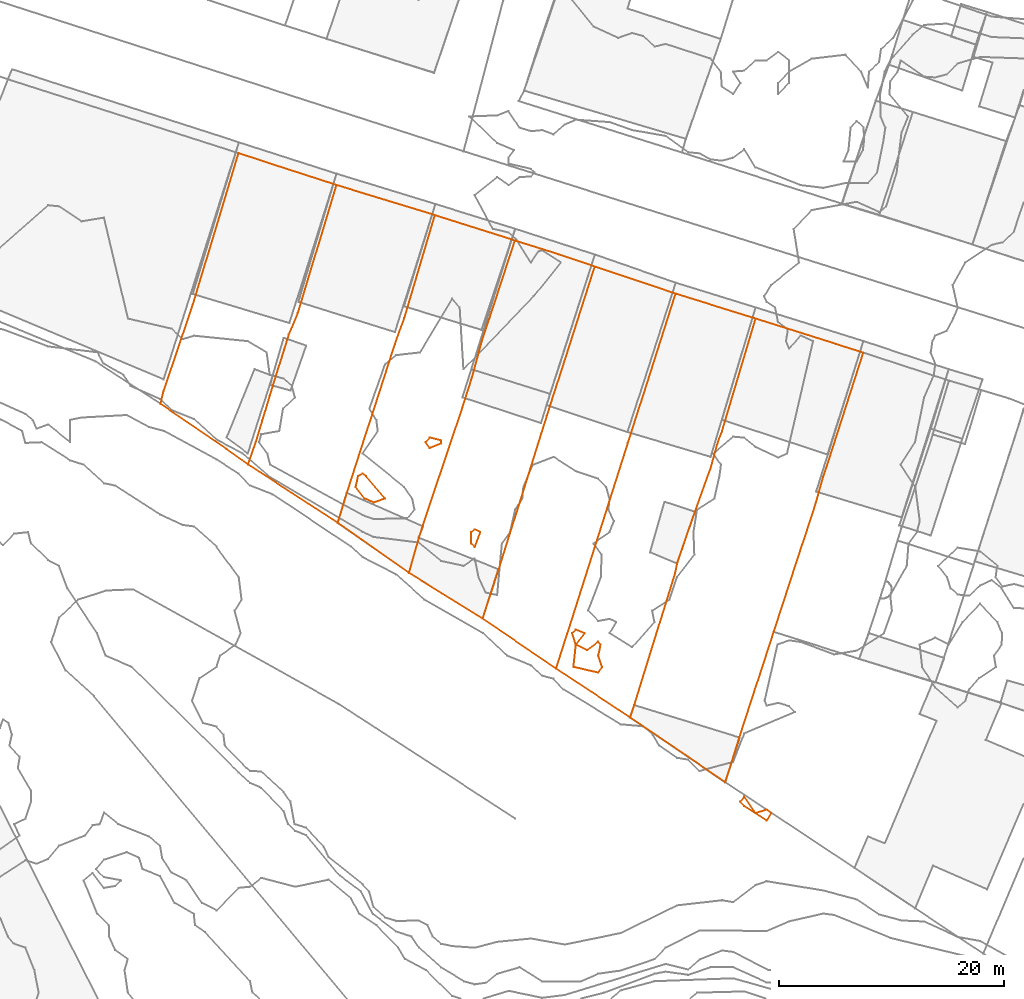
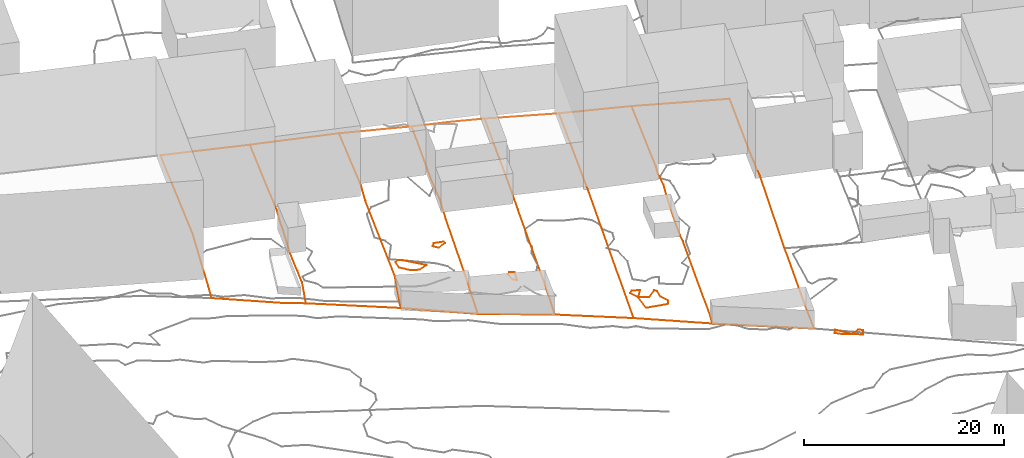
# Not in any storey, part 195 of 419: 12 proxies.
"""IFC2X3 model written with IfcOpenShell, lengths in metres."""

import ifcopenshell
import ifcopenshell.guid

model = None  # the IFC model being written
_history = None  # IfcOwnerHistory: only IFC2X3 demands one
_inside = {}  # id of a spatial element -> (the spatial element, [elements in it])
_under = {}  # id of a project, library or spatial element -> (it, [spatial elements below it])
_declared = {}  # id of a project -> (the project, [libraries it declares])
_typed = {}  # id of a type object -> (the type object, [elements of that type])
_made_of = {}  # id of a material, layer set ... -> (it, [elements and type objects made of it])


def new_model(schema):
    """Start an empty IFC model of exactly this schema.

    Asked for "IFC4X3", IfcOpenShell would pick the latest addendum, in which some entities
    have other attributes; the version numbers below select the first issue.
    IFC2X3 requires an IfcOwnerHistory on every rooted entity: one is made here for all.
    """
    global model, _history
    if schema == "IFC4X3":
        model = ifcopenshell.file(schema_version=(4, 3, 0, 0))
    else:
        model = ifcopenshell.file(schema=schema)
    _inside.clear()
    _under.clear()
    _declared.clear()
    _typed.clear()
    _made_of.clear()
    _history = None
    if model.schema == "IFC2X3":
        org = make("IfcOrganization", Name="unknown")
        user = make(
            "IfcPersonAndOrganization",
            ThePerson=make("IfcPerson", FamilyName="unknown"),
            TheOrganization=org,
        )
        app = make(
            "IfcApplication",
            ApplicationDeveloper=org,
            Version="unknown",
            ApplicationFullName="unknown",
            ApplicationIdentifier="unknown",
        )
        _history = make(
            "IfcOwnerHistory",
            OwningUser=user,
            OwningApplication=app,
            ChangeAction="ADDED",
            CreationDate=0,
        )
    return model


def make(cls, **values):
    """One entity of the class cls with the attributes given. An attribute that is None is left unset."""
    return model.create_entity(
        cls, **{name: value for name, value in values.items() if value is not None}
    )


def entity(cls, *values):
    """Any entity or typed value of the class cls, its attributes in the order of the schema. None: left unset."""
    e = model.create_entity(cls)
    for i, value in enumerate(values):
        if value is not None:
            e[i] = value
    return e


def rooted(cls, **values):
    """An entity with a GlobalId (a new one), such as an element, a storey or a relation."""
    return make(cls, GlobalId=ifcopenshell.guid.new(), OwnerHistory=_history, **values)


def si_unit(unit_type, name, prefix=None):
    """IfcSIUnit, for example si_unit("LENGTHUNIT", "METRE", prefix="MILLI")."""
    return make("IfcSIUnit", UnitType=unit_type, Prefix=prefix, Name=name)


def assignment(units):
    """IfcUnitAssignment: the units of a project."""
    return None if units is None else make("IfcUnitAssignment", Units=units)


def point(xyz):
    """IfcCartesianPoint."""
    return None if xyz is None else make("IfcCartesianPoint", Coordinates=xyz)


def direction(xyz):
    """IfcDirection."""
    return None if xyz is None else make("IfcDirection", DirectionRatios=xyz)


def frame(location, z_axis=None, x_axis=None):
    """IfcAxis2Placement3D, a coordinate frame: its origin and axes. An axis left out is left unset."""
    return make(
        "IfcAxis2Placement3D",
        Location=point(location),
        Axis=direction(z_axis),
        RefDirection=direction(x_axis),
    )


def origin_with_axes():
    """The frame at (0, 0, 0) with the z axis (0, 0, 1) and the x axis (1, 0, 0) written out."""
    return frame((0.0, 0.0, 0.0), z_axis=(0.0, 0.0, 1.0), x_axis=(1.0, 0.0, 0.0))


def place(relative_to, where):
    """IfcLocalPlacement: puts the frame where relative to a parent placement (None: the world)."""
    return make(
        "IfcLocalPlacement", PlacementRelTo=relative_to, RelativePlacement=where
    )


def context(
    kind, dimensions, precision=None, world=None, true_north=None, identifier=None
):
    """IfcGeometricRepresentationContext, for example the 3D "Model" context."""
    return make(
        "IfcGeometricRepresentationContext",
        ContextIdentifier=identifier,
        ContextType=kind,
        CoordinateSpaceDimension=dimensions,
        Precision=precision,
        WorldCoordinateSystem=world,
        TrueNorth=true_north,
    )


def subcontext(parent, identifier, kind, view, scale=None):
    """IfcGeometricRepresentationSubContext, for example "Body" below "Model"."""
    return make(
        "IfcGeometricRepresentationSubContext",
        ContextIdentifier=identifier,
        ContextType=kind,
        ParentContext=parent,
        TargetScale=scale,
        TargetView=view,
    )


def project(units=None, contexts=None):
    """IfcProject with its units and contexts."""
    return rooted(
        "IfcProject",
        Name="project",
        RepresentationContexts=contexts,
        UnitsInContext=assignment(units),
    )


def shape(context_of_items, identifier, shape_type, items):
    """IfcShapeRepresentation: the items that make up one representation, for example the "Body"."""
    return make(
        "IfcShapeRepresentation",
        ContextOfItems=context_of_items,
        RepresentationIdentifier=identifier,
        RepresentationType=shape_type,
        Items=items,
    )


def made_of(thing, what):
    """Note that an element or type object is made of a material, layer set ...; save() writes the relation."""
    if what is not None:
        _made_of.setdefault(what.id(), (what, []))[1].append(thing)
    return thing


def element(
    cls,
    number,
    at=None,
    inside=None,
    cuts=None,
    type_object=None,
    material=None,
    context=None,
    identifier="Body",
    shape_type=None,
    held_by="IfcProductDefinitionShape",
    body=None,
    shapes=None,
    **own,
):
    """One element of the class cls, such as IfcWall. Its Tag is "e" and its number.

    at: its placement. inside: the storey or other place that contains it. cuts: it is an
    opening in that element (IfcRelVoidsElement). A single representation is given by context,
    identifier, shape_type and body (its items); several are given by shapes. held_by: the class
    of the entity that holds the representations. save() writes the other relations.
    """
    e = rooted(cls, Tag="e%d" % number, ObjectPlacement=at, **own)
    if body is not None:
        shapes = [shape(context, identifier, shape_type, body)]
    if shapes is not None:
        e.Representation = make(held_by, Representations=shapes)
    if inside is not None:
        _inside.setdefault(inside.id(), (inside, []))[1].append(e)
    if cuts is not None:
        rooted(
            "IfcRelVoidsElement", RelatingBuildingElement=cuts, RelatedOpeningElement=e
        )
    if type_object is not None:
        _typed.setdefault(type_object.id(), (type_object, []))[1].append(e)
    return made_of(e, material)


def aggregate(whole, parts):
    """IfcRelAggregates: a whole, such as a stair, and the parts it consists of."""
    return rooted("IfcRelAggregates", RelatingObject=whole, RelatedObjects=parts)


def save(model, path):
    """Write the relations noted so far, then the file.

    IfcRelAggregates (storeys below a building ...), IfcRelContainedInSpatialStructure (elements
    in a storey), IfcRelDefinesByType, IfcRelAssociatesMaterial and IfcRelDeclares: one each for
    every whole, place, type object, material and project.
    """
    for whole, parts in _under.values():
        aggregate(whole, parts)
    for where, things in _inside.values():
        rooted(
            "IfcRelContainedInSpatialStructure",
            RelatedElements=things,
            RelatingStructure=where,
        )
    for kind, things in _typed.values():
        rooted("IfcRelDefinesByType", RelatedObjects=things, RelatingType=kind)
    for what, things in _made_of.values():
        rooted("IfcRelAssociatesMaterial", RelatedObjects=things, RelatingMaterial=what)
    for by, libraries in _declared.values():
        rooted("IfcRelDeclares", RelatingContext=by, RelatedDefinitions=libraries)
    model.write(path)


model = new_model("IFC2X3")

# Units and contexts
model_context = context("Model", 3, precision=1e-05, world=origin_with_axes())
body_context = subcontext(model_context, "Body", "Model", "MODEL_VIEW")
ifc_project = project(units=[si_unit("AREAUNIT", "SQUARE_METRE"), si_unit("LENGTHUNIT", "METRE")], contexts=[model_context])

# Proxies
proxy_1_placement = place(None, frame((840.9020204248, 128.917690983, 74.7575777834), z_axis=(0.0, 0.0, 1.0), x_axis=(1.0, 0.0, 0.0)))
element("IfcBuildingElementProxy", 1, at=proxy_1_placement, Name="Cadastre 122", ObjectType="NOTDEFINED", context=body_context, shape_type="GeometricCurveSet", body=[
    entity("IfcGeometricCurveSet", [entity("IfcPolyline", [entity("IfcCartesianPoint", [16.64, 22.1999999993, 1.5222605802]), entity("IfcCartesianPoint", [13.9199999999, 13.0499999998, 1.6239882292]), entity("IfcCartesianPoint", [13.08, 10.7299999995, 1.4205470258]), entity("IfcCartesianPoint", [8.7999999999, -2.5500000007, 1.8935833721]), entity("IfcCartesianPoint", [7.99, -5.1800000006, -0.2240576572]), entity("IfcCartesianPoint", [0.0, 0.0, 0.0]), entity("IfcCartesianPoint", [0.6899999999, 1.9699999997, 1.1384199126]), entity("IfcCartesianPoint", [1.2799999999, 3.9099999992, 1.1091110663]), entity("IfcCartesianPoint", [1.9399999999, 6.0899999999, 1.1049715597]), entity("IfcCartesianPoint", [2.1799999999, 6.8999999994, 1.1157044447]), entity("IfcCartesianPoint", [3.23, 10.2399999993, 1.7212671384]), entity("IfcCartesianPoint", [3.64, 11.5599999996, 1.8698835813]), entity("IfcCartesianPoint", [4.4399999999, 13.4799999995, 1.6099206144]), entity("IfcCartesianPoint", [7.88, 24.8799999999, 1.5647201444]), entity("IfcCartesianPoint", [16.64, 22.1999999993, 1.5222605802])])]),
])
proxy_2_placement = place(None, frame((833.1120204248, 134.3176909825, 74.8502401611), z_axis=(0.0, 0.0, 1.0), x_axis=(1.0, 0.0, 0.0)))
element("IfcBuildingElementProxy", 2, at=proxy_2_placement, Name="Cadastre 123", ObjectType="NOTDEFINED", context=body_context, shape_type="GeometricCurveSet", body=[
    entity("IfcGeometricCurveSet", [entity("IfcPolyline", [entity("IfcCartesianPoint", [15.67, 19.4800000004, 1.4720577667]), entity("IfcCartesianPoint", [12.23, 8.0800000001, 1.5172582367]), entity("IfcCartesianPoint", [11.4300000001, 6.1600000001, 1.7772212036]), entity("IfcCartesianPoint", [11.02, 4.8399999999, 1.6286047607]), entity("IfcCartesianPoint", [9.97, 1.5, 1.023042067]), entity("IfcCartesianPoint", [9.73, 0.6900000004, 1.012309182]), entity("IfcCartesianPoint", [9.0699999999, -1.4900000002, 1.0164486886]), entity("IfcCartesianPoint", [8.48, -3.4299999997, 1.0457575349]), entity("IfcCartesianPoint", [7.79, -5.3999999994, -0.0926623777]), entity("IfcCartesianPoint", [5.87, -4.0199999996, -0.2123916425]), entity("IfcCartesianPoint", [0.0, 0.0, 0.0]), entity("IfcCartesianPoint", [0.28, 1.1600000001, 0.6571166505]), entity("IfcCartesianPoint", [2.87, 8.79, 1.556423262]), entity("IfcCartesianPoint", [6.95, 22.3100000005, 1.515517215]), entity("IfcCartesianPoint", [15.67, 19.4800000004, 1.4720577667])])]),
])
proxy_3_placement = place(None, frame((848.8920204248, 123.7376909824, 74.5335201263), z_axis=(0.0, 0.0, 1.0), x_axis=(1.0, 0.0, 0.0)))
element("IfcBuildingElementProxy", 3, at=proxy_3_placement, Name="Cadastre 190", ObjectType="NOTDEFINED", context=body_context, shape_type="GeometricCurveSet", body=[
    entity("IfcGeometricCurveSet", [entity("IfcPolyline", [entity("IfcCartesianPoint", [15.77, 25.1200000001, 1.4646356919]), entity("IfcCartesianPoint", [12.8199999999, 16.1100000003, 1.4563823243]), entity("IfcCartesianPoint", [11.88, 12.6800000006, 1.381678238]), entity("IfcCartesianPoint", [11.0699999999, 10.1699999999, 0.8720753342]), entity("IfcCartesianPoint", [7.5599999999, -0.3099999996, 0.6956909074]), entity("IfcCartesianPoint", [7.24, -1.3099999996, 0.5296708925]), entity("IfcCartesianPoint", [6.34, -4.4699999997, -0.2385798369]), entity("IfcCartesianPoint", [0.0, 0.0, 0.0]), entity("IfcCartesianPoint", [0.8099999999, 2.6299999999, 2.1176410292]), entity("IfcCartesianPoint", [5.09, 15.9100000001, 1.644604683]), entity("IfcCartesianPoint", [5.9299999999, 18.2300000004, 1.8480458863]), entity("IfcCartesianPoint", [8.65, 27.3799999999, 1.7463182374]), entity("IfcCartesianPoint", [15.77, 25.1200000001, 1.4646356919])])]),
])
proxy_4_placement = place(None, frame((855.2320204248, 119.2676909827, 74.2949402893), z_axis=(0.0, 0.0, 1.0), x_axis=(1.0, 0.0, 0.0)))
element("IfcBuildingElementProxy", 4, at=proxy_4_placement, Name="Cadastre 191", ObjectType="NOTDEFINED", context=body_context, shape_type="GeometricCurveSet", body=[
    entity("IfcGeometricCurveSet", [entity("IfcPolyline", [entity("IfcCartesianPoint", [16.54, 27.2800000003, 1.5730403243]), entity("IfcCartesianPoint", [12.5699999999, 14.8799999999, 1.3618594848]), entity("IfcCartesianPoint", [12.28, 13.9699999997, 1.3117157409]), entity("IfcCartesianPoint", [11.77, 12.3700000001, 1.1352033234]), entity("IfcCartesianPoint", [8.0, 0.3300000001, 0.4890591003]), entity("IfcCartesianPoint", [6.5600000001, -4.0700000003, 0.0922621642]), entity("IfcCartesianPoint", [0.0, 0.0, 0.0]), entity("IfcCartesianPoint", [0.9, 3.1600000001, 0.7682507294]), entity("IfcCartesianPoint", [1.22, 4.1600000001, 0.9342707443]), entity("IfcCartesianPoint", [4.73, 14.6399999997, 1.1106551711]), entity("IfcCartesianPoint", [5.54, 17.1500000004, 1.6202580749]), entity("IfcCartesianPoint", [6.48, 20.5800000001, 1.6949621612]), entity("IfcCartesianPoint", [9.4300000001, 29.5899999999, 1.7032155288]), entity("IfcCartesianPoint", [13.39, 28.3399999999, 1.6616943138]), entity("IfcCartesianPoint", [16.54, 27.2800000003, 1.5730403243])])]),
])
proxy_5_placement = place(None, frame((861.7920204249, 115.1976909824, 74.3872024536), z_axis=(0.0, 0.0, 1.0), x_axis=(1.0, 0.0, 0.0)))
element("IfcBuildingElementProxy", 5, at=proxy_5_placement, Name="Cadastre 192", ObjectType="NOTDEFINED", context=body_context, shape_type="GeometricCurveSet", body=[
    entity("IfcGeometricCurveSet", [entity("IfcPolyline", [entity("IfcCartesianPoint", [17.1799999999, 28.9300000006, 1.0716720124]), entity("IfcCartesianPoint", [12.9299999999, 15.6200000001, 1.0371231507]), entity("IfcCartesianPoint", [6.5399999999, -4.46, -0.0143181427]), entity("IfcCartesianPoint", [0.0, 0.0, 0.0]), entity("IfcCartesianPoint", [1.4399999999, 4.4000000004, 0.3967969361]), entity("IfcCartesianPoint", [5.21, 16.4400000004, 1.0429411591]), entity("IfcCartesianPoint", [5.72, 18.04, 1.2194535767]), entity("IfcCartesianPoint", [6.0099999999, 18.9500000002, 1.2695973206]), entity("IfcCartesianPoint", [9.98, 31.3500000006, 1.4807781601]), entity("IfcCartesianPoint", [17.1799999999, 28.9300000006, 1.0716720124])])]),
])
proxy_6_placement = place(None, frame((868.3320204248, 110.7376909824, 74.3728843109), z_axis=(0.0, 0.0, 1.0), x_axis=(1.0, 0.0, 0.0)))
element("IfcBuildingElementProxy", 6, at=proxy_6_placement, Name="Cadastre 193", ObjectType="NOTDEFINED", context=body_context, shape_type="GeometricCurveSet", body=[
    entity("IfcGeometricCurveSet", [entity("IfcPolyline", [entity("IfcCartesianPoint", [17.76, 31.1699999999, 0.8222172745]), entity("IfcCartesianPoint", [14.76, 21.1299999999, 0.6523639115]), entity("IfcCartesianPoint", [14.36, 20.04, 0.5921358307]), entity("IfcCartesianPoint", [13.75, 17.8399999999, 0.7060647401]), entity("IfcCartesianPoint", [12.35, 13.9700000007, 0.5317525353]), entity("IfcCartesianPoint", [10.79, 9.3900000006, 0.6733961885]), entity("IfcCartesianPoint", [10.5900000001, 8.4800000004, 0.5662390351]), entity("IfcCartesianPoint", [6.9600000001, -3.2299999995, -0.0633833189]), entity("IfcCartesianPoint", [6.6, -4.3399999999, -0.345883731]), entity("IfcCartesianPoint", [0.0, 0.0, 0.0]), entity("IfcCartesianPoint", [6.39, 20.0800000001, 1.0514412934]), entity("IfcCartesianPoint", [10.64, 33.3900000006, 1.0859901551]), entity("IfcCartesianPoint", [17.76, 31.1699999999, 0.8222172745])])]),
])
proxy_7_placement = place(None, frame((874.9320204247, 106.3976909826, 74.0270005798), z_axis=(0.0, 0.0, 1.0), x_axis=(1.0, 0.0, 0.0)))
element("IfcBuildingElementProxy", 7, at=proxy_7_placement, Name="Cadastre 194", ObjectType="NOTDEFINED", context=body_context, shape_type="GeometricCurveSet", body=[
    entity("IfcGeometricCurveSet", [entity("IfcPolyline", [entity("IfcCartesianPoint", [12.77, 7.6200000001, 0.1137705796]), entity("IfcCartesianPoint", [9.7100000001, -1.7999999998, -0.1210004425]), entity("IfcCartesianPoint", [8.4600000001, -5.7599999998, -0.0882818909]), entity("IfcCartesianPoint", [0.0, 0.0, 0.0]), entity("IfcCartesianPoint", [0.3600000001, 1.1100000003, 0.2825004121]), entity("IfcCartesianPoint", [3.9900000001, 12.8200000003, 0.9121227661]), entity("IfcCartesianPoint", [4.1900000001, 13.7300000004, 1.0192799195]), entity("IfcCartesianPoint", [5.75, 18.3100000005, 0.8776362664]), entity("IfcCartesianPoint", [7.15, 22.1799999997, 1.0519484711]), entity("IfcCartesianPoint", [7.76, 24.3799999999, 0.9380195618]), entity("IfcCartesianPoint", [8.16, 25.4699999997, 0.9982476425]), entity("IfcCartesianPoint", [11.16, 35.5099999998, 1.1681010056]), entity("IfcCartesianPoint", [20.75, 32.4800000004, 0.5377733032]), entity("IfcCartesianPoint", [17.52, 22.4400000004, 0.6626136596]), entity("IfcCartesianPoint", [17.17, 21.4000000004, 0.771957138]), entity("IfcCartesianPoint", [16.51, 19.0499999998, 0.7675017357]), entity("IfcCartesianPoint", [12.77, 7.6200000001, 0.1137705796])])]),
])
proxy_8_placement = place(None, frame((856.7170442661, 130.8976909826, 75.0), z_axis=(0.0, 0.0, 1.0), x_axis=(1.0, 0.0, 0.0)))
element("IfcBuildingElementProxy", 8, at=proxy_8_placement, Name="Contour 75.0 m", ObjectType="NOTDEFINED", context=body_context, shape_type="GeometricCurveSet", body=[
    entity("IfcGeometricCurveSet", [entity("IfcPolyline", [entity("IfcCartesianPoint", [1.3749761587, -0.1000228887, 0.0]), entity("IfcCartesianPoint", [1.3749761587, 0.1666878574, 0.0]), entity("IfcCartesianPoint", [0.3749761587, 0.4285558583, 0.0]), entity("IfcCartesianPoint", [0.0, 0.0, 0.0]), entity("IfcCartesianPoint", [0.3749761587, -0.4999833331, 0.0]), entity("IfcCartesianPoint", [1.3749761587, -0.1000228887, 0.0])])]),
])
proxy_9_placement = place(None, frame((850.499423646, 126.8976909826, 77.0), z_axis=(0.0, 0.0, 1.0), x_axis=(1.0, 0.0, 0.0)))
element("IfcBuildingElementProxy", 9, at=proxy_9_placement, Name="Contour 77.0 m", ObjectType="NOTDEFINED", context=body_context, shape_type="GeometricCurveSet", body=[
    entity("IfcGeometricCurveSet", [entity("IfcPolyline", [entity("IfcCartesianPoint", [2.618243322, -1.0, 0.0]), entity("IfcCartesianPoint", [1.5925967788, -1.3448257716, 0.0]), entity("IfcCartesianPoint", [0.7926089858, -1.0, 0.0]), entity("IfcCartesianPoint", [0.0, 0.0, 0.0]), entity("IfcCartesianPoint", [0.2037102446, 1.0, 0.0]), entity("IfcCartesianPoint", [0.5925967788, 1.222222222, 0.0]), entity("IfcCartesianPoint", [0.9107754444, 1.0, 0.0]), entity("IfcCartesianPoint", [2.618243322, -1.0, 0.0])])]),
])
proxy_10_placement = place(None, frame((860.758602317, 121.8976909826, 75.0), z_axis=(0.0, 0.0, 1.0), x_axis=(1.0, 0.0, 0.0)))
element("IfcBuildingElementProxy", 10, at=proxy_10_placement, Name="Contour 75.0 m", ObjectType="NOTDEFINED", context=body_context, shape_type="GeometricCurveSet", body=[
    entity("IfcGeometricCurveSet", [entity("IfcPolyline", [entity("IfcCartesianPoint", [0.3334181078, -0.3334181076, 0.0]), entity("IfcCartesianPoint", [0.8333681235, 1.0, 0.0]), entity("IfcCartesianPoint", [0.3334181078, 1.2500476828, 0.0]), entity("IfcCartesianPoint", [0.0, 1.0, 0.0]), entity("IfcCartesianPoint", [0.0, 0.0, 0.0]), entity("IfcCartesianPoint", [0.3334181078, -0.3334181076, 0.0])])]),
])
proxy_11_placement = place(None, frame((869.7586870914, 113.8976909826, 75.0), z_axis=(0.0, 0.0, 1.0), x_axis=(1.0, 0.0, 0.0)))
element("IfcBuildingElementProxy", 11, at=proxy_11_placement, Name="Contour 75.0 m", ObjectType="NOTDEFINED", context=body_context, shape_type="GeometricCurveSet", body=[
    entity("IfcGeometricCurveSet", [entity("IfcPolyline", [entity("IfcCartesianPoint", [2.6667514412, -3.0, 0.0]), entity("IfcCartesianPoint", [2.3333333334, -3.5000499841, 0.0]), entity("IfcCartesianPoint", [0.1171137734, -3.0, 0.0]), entity("IfcCartesianPoint", [0.3333270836, -1.0, 0.0]), entity("IfcCartesianPoint", [0.0, 0.0, 0.0]), entity("IfcCartesianPoint", [0.3333333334, 0.333333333, 0.0]), entity("IfcCartesianPoint", [1.1333028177, 0.0, 0.0]), entity("IfcCartesianPoint", [0.3333833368, -1.0, 0.0]), entity("IfcCartesianPoint", [1.3333333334, -1.4999749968, 0.0]), entity("IfcCartesianPoint", [2.3333333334, -0.7499523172, 0.0]), entity("IfcCartesianPoint", [2.533363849, -1.0, 0.0]), entity("IfcCartesianPoint", [2.3333583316, -2.0, 0.0]), entity("IfcCartesianPoint", [2.6667514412, -3.0, 0.0])])]),
])
proxy_12_placement = place(None, frame((884.7348542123, 98.8976909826, 74.0), z_axis=(0.0, 0.0, 1.0), x_axis=(1.0, 0.0, 0.0)))
element("IfcBuildingElementProxy", 12, at=proxy_12_placement, Name="Contour 74.0 m", ObjectType="NOTDEFINED", context=body_context, shape_type="GeometricCurveSet", body=[
    entity("IfcGeometricCurveSet", [entity("IfcPolyline", [entity("IfcCartesianPoint", [2.7571814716, -1.0, 0.0]), entity("IfcCartesianPoint", [2.3571662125, -1.6667090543, 0.0]), entity("IfcCartesianPoint", [0.3571662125, -0.3846244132, 0.0]), entity("IfcCartesianPoint", [0.0, 0.0, 0.0]), entity("IfcCartesianPoint", [0.3571662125, 0.4545706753, 0.0]), entity("IfcCartesianPoint", [1.3571662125, -0.9999833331, 0.0]), entity("IfcCartesianPoint", [2.3571662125, -0.6922941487, 0.0]), entity("IfcCartesianPoint", [2.7571814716, -1.0, 0.0])])]),
])

save(model, "model.ifc")
